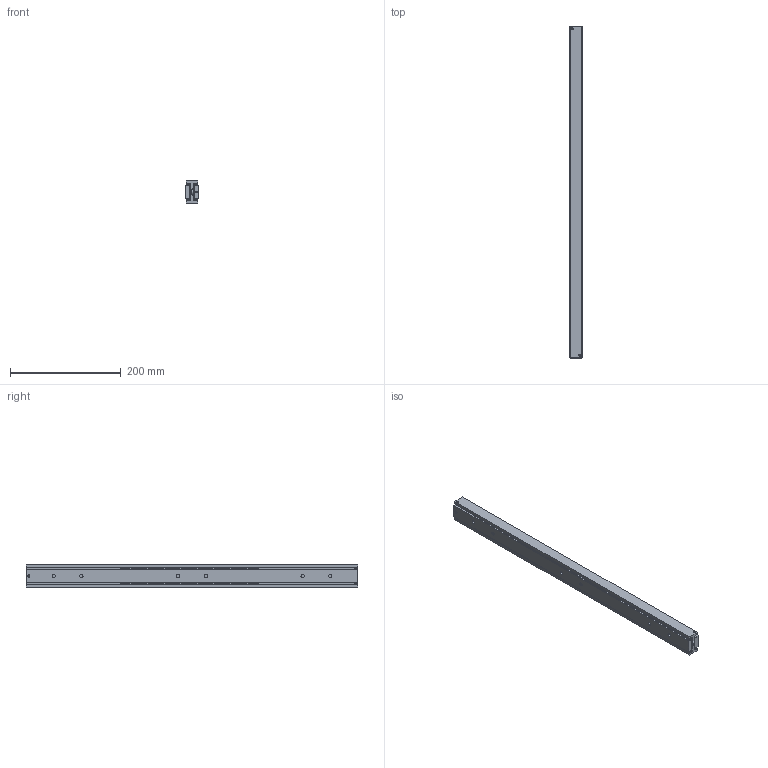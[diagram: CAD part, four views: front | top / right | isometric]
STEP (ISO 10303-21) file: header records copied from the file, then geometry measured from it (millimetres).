
FILE_DESCRIPTION(/* description */ (''),/* implementation_level */ '2;1');
FILE_NAME(/* name */ 'C:\Users\Miluxor\Desktop\Miluxor Schienen\Original Zeichnungen\Zeichnungen Schienen Komplett\MX-DTP40\MX-DTP40.060\MX-DTP40.060_eingefahren.stp',/* time_stamp */ '2019-10-07T08:52:29+02:00',/* author */ ('Miluxor'),/* organization */ (''),/* preprocessor_version */ 'ST-DEVELOPER v16.13',/* originating_system */ 'AutoCAD Mechanical',/* authorisation */ '');
FILE_SCHEMA (('AUTOMOTIVE_DESIGN { 1 0 10303 214 3 1 1 }'));
Products named in the file (1): Product
Bounding box: 24 x 600 x 40.5 mm (x, y, z)
Volume: 452421.5 mm3; surface area: 225195.9 mm2
Topology: 71 solids, 71 shells, 506 faces, 1292 edges, 856 vertices
Faces by surface type: plane 312, cylinder 72, bspline 68, sphere 40, cone 8, torus 6
Full cylindrical faces by diameter (mm): 4 x2, 6 x52, 10 x2
Entity records: 51969 total; most frequent: CARTESIAN_POINT 40533, ORIENTED_EDGE 2264, DIRECTION 2044, EDGE_CURVE 1132, VERTEX_POINT 846, LINE 738, VECTOR 738, EDGE_LOOP 688
